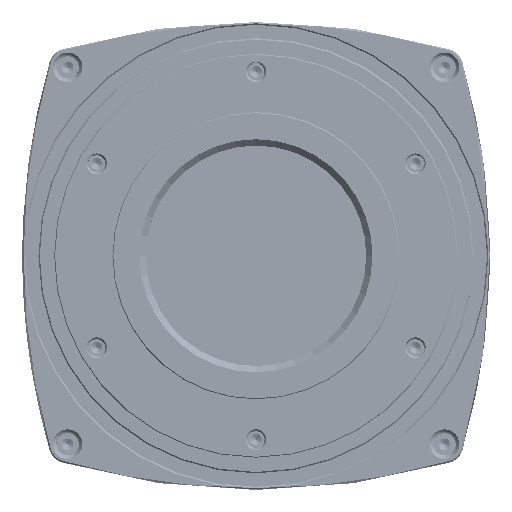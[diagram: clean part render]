
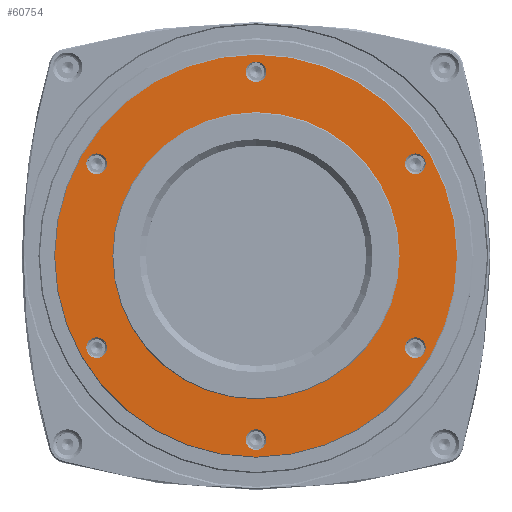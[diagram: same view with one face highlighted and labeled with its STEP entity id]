
A CAD part, top view. The second image highlights one B-rep face of the part: STEP entity #60754.
In plain terms, the highlighted planar face has unit normal (0, 0, 1).
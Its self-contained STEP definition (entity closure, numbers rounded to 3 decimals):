
#60754=ADVANCED_FACE('',(#73663,#73664,#73665,#73666,#73667,#73668,#73669,
#73670),#68531,.F.);
#68531=PLANE('',#201419);
#73663=FACE_BOUND('',#81015,.T.);
#73664=FACE_BOUND('',#81016,.T.);
#73665=FACE_BOUND('',#81017,.T.);
#73666=FACE_BOUND('',#81018,.T.);
#73667=FACE_BOUND('',#81019,.T.);
#73668=FACE_BOUND('',#81020,.T.);
#73669=FACE_BOUND('',#81021,.T.);
#73670=FACE_BOUND('',#81022,.T.);
#81015=EDGE_LOOP('',(#111949));
#81016=EDGE_LOOP('',(#111950));
#81017=EDGE_LOOP('',(#111951));
#81018=EDGE_LOOP('',(#111952));
#81019=EDGE_LOOP('',(#111953));
#81020=EDGE_LOOP('',(#111954));
#81021=EDGE_LOOP('',(#111955));
#81022=EDGE_LOOP('',(#111956));
#111949=ORIENTED_EDGE('',*,*,#172241,.T.);
#111950=ORIENTED_EDGE('',*,*,#172242,.T.);
#111951=ORIENTED_EDGE('',*,*,#172243,.T.);
#111952=ORIENTED_EDGE('',*,*,#172244,.T.);
#111953=ORIENTED_EDGE('',*,*,#172245,.T.);
#111954=ORIENTED_EDGE('',*,*,#172246,.T.);
#111955=ORIENTED_EDGE('',*,*,#172247,.T.);
#111956=ORIENTED_EDGE('',*,*,#172248,.T.);
#150128=VERTEX_POINT('',#384928);
#150129=VERTEX_POINT('',#384930);
#150130=VERTEX_POINT('',#384932);
#150131=VERTEX_POINT('',#384934);
#150132=VERTEX_POINT('',#384936);
#150133=VERTEX_POINT('',#384938);
#150134=VERTEX_POINT('',#384940);
#150135=VERTEX_POINT('',#384942);
#172241=EDGE_CURVE('',#150128,#150128,#191109,.T.);
#172242=EDGE_CURVE('',#150129,#150129,#191110,.T.);
#172243=EDGE_CURVE('',#150130,#150130,#191111,.T.);
#172244=EDGE_CURVE('',#150131,#150131,#191112,.T.);
#172245=EDGE_CURVE('',#150132,#150132,#191113,.T.);
#172246=EDGE_CURVE('',#150133,#150133,#191114,.T.);
#172247=EDGE_CURVE('',#150134,#150134,#191115,.T.);
#172248=EDGE_CURVE('',#150135,#150135,#191116,.T.);
#191109=CIRCLE('',#201411,1.15);
#191110=CIRCLE('',#201412,1.15);
#191111=CIRCLE('',#201413,1.15);
#191112=CIRCLE('',#201414,1.15);
#191113=CIRCLE('',#201415,1.15);
#191114=CIRCLE('',#201416,22.4);
#191115=CIRCLE('',#201417,1.15);
#191116=CIRCLE('',#201418,16.);
#201411=AXIS2_PLACEMENT_3D('',#384927,#231510,#231511);
#201412=AXIS2_PLACEMENT_3D('',#384929,#231512,#231513);
#201413=AXIS2_PLACEMENT_3D('',#384931,#231514,#231515);
#201414=AXIS2_PLACEMENT_3D('',#384933,#231516,#231517);
#201415=AXIS2_PLACEMENT_3D('',#384935,#231518,#231519);
#201416=AXIS2_PLACEMENT_3D('',#384937,#231520,#231521);
#201417=AXIS2_PLACEMENT_3D('',#384939,#231522,#231523);
#201418=AXIS2_PLACEMENT_3D('',#384941,#231524,#231525);
#201419=AXIS2_PLACEMENT_3D('',#384943,#231526,#231527);
#231510=DIRECTION('',(0.,0.,-1.));
#231511=DIRECTION('',(-1.,0.,0.));
#231512=DIRECTION('',(0.,0.,-1.));
#231513=DIRECTION('',(-1.,0.,0.));
#231514=DIRECTION('',(0.,0.,-1.));
#231515=DIRECTION('',(-1.,0.,0.));
#231516=DIRECTION('',(0.,0.,-1.));
#231517=DIRECTION('',(-1.,0.,0.));
#231518=DIRECTION('',(0.,0.,-1.));
#231519=DIRECTION('',(-1.,0.,0.));
#231520=DIRECTION('',(0.,0.,1.));
#231521=DIRECTION('',(-1.,0.,0.));
#231522=DIRECTION('',(0.,0.,-1.));
#231523=DIRECTION('',(-1.,0.,0.));
#231524=DIRECTION('',(0.,0.,-1.));
#231525=DIRECTION('',(-1.,0.,0.));
#231526=DIRECTION('',(0.,0.,-1.));
#231527=DIRECTION('',(-1.,0.,0.));
#384927=CARTESIAN_POINT('',(-17.754,10.25,-0.76));
#384928=CARTESIAN_POINT('',(-18.904,10.25,-0.76));
#384929=CARTESIAN_POINT('',(0.,20.5,-0.76));
#384930=CARTESIAN_POINT('',(-1.15,20.5,-0.76));
#384931=CARTESIAN_POINT('',(17.754,10.25,-0.76));
#384932=CARTESIAN_POINT('',(16.604,10.25,-0.76));
#384933=CARTESIAN_POINT('',(17.754,-10.25,-0.76));
#384934=CARTESIAN_POINT('',(16.604,-10.25,-0.76));
#384935=CARTESIAN_POINT('',(0.,-20.5,-0.76));
#384936=CARTESIAN_POINT('',(-1.15,-20.5,-0.76));
#384937=CARTESIAN_POINT('',(0.,0.,-0.76));
#384938=CARTESIAN_POINT('',(-22.4,0.,-0.76));
#384939=CARTESIAN_POINT('',(-17.754,-10.25,-0.76));
#384940=CARTESIAN_POINT('',(-18.904,-10.25,-0.76));
#384941=CARTESIAN_POINT('',(0.,0.,-0.76));
#384942=CARTESIAN_POINT('',(-16.,0.,-0.76));
#384943=CARTESIAN_POINT('',(0.,0.,-0.76));
